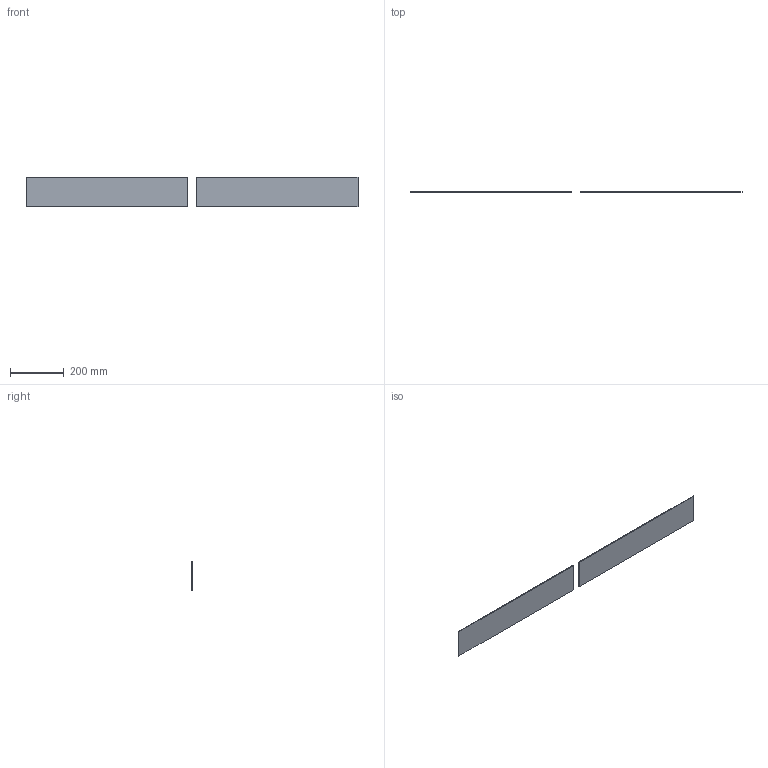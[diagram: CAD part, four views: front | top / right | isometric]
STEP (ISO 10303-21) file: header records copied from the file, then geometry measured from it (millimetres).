
FILE_DESCRIPTION(/* description */ (''),/* implementation_level */ '2;1');
FILE_NAME(/* name */ 'FR1BFE~1',/* time_stamp */ '2014-02-14T19:34:11+01:00',/* author */ (''),/* organization */ (''),/* preprocessor_version */ 'ST-DEVELOPER v14',/* originating_system */ '',/* authorisation */ '');
FILE_SCHEMA (('AUTOMOTIVE_DESIGN'));
Length unit declared in the file: millimetre
Products named in the file (1): Document
Bounding box: 1230 x 3 x 110 mm (x, y, z)
Volume: 396000 mm3; surface area: 272520 mm2
Topology: 2 solids, 2 shells, 12 faces, 24 edges, 16 vertices
Faces by surface type: plane 12
Entity records: 571 total; most frequent: CARTESIAN_POINT 174, B_SPLINE_CURVE_WITH_KNOTS 72, ORIENTED_EDGE 48, PCURVE 48, DEFINITIONAL_REPRESENTATION 48, SURFACE_CURVE 24, EDGE_CURVE 24, VERTEX_POINT 16
